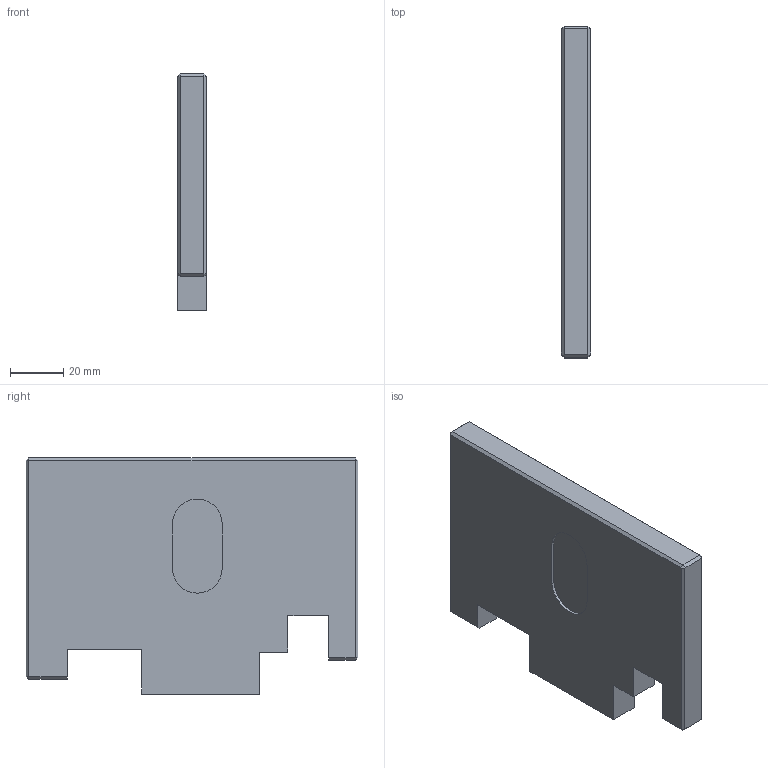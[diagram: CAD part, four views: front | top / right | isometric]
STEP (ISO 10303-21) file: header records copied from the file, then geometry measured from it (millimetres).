
FILE_DESCRIPTION(/* description */ (''),/* implementation_level */ '2;1');
FILE_NAME(/* name */ 'D:\CHINT2\NR2\Механическая блокировка NC1-40-95.stp',/* time_stamp */ '2017-11-15T20:32:56+03:00',/* author */ ('RSagdiev'),/* organization */ (''),/* preprocessor_version */ 'ST-DEVELOPER v16.5',/* originating_system */ 'Autodesk Inventor 2017',/* authorisation */ '');
FILE_SCHEMA (('AUTOMOTIVE_DESIGN { 1 0 10303 214 3 1 1 }'));
Length unit declared in the file: millimetre
Products named in the file (1): Механическая 
блокировка NC1-40-95
Bounding box: 11 x 125 x 89 mm (x, y, z)
Volume: 106384.2 mm3; surface area: 24732.8 mm2
Topology: 1 solids, 1 shells, 48 faces, 108 edges, 64 vertices
Faces by surface type: plane 44, cylinder 4
Entity records: 1319 total; most frequent: CARTESIAN_POINT 221, ORIENTED_EDGE 216, DIRECTION 214, EDGE_CURVE 108, LINE 100, VECTOR 100, VERTEX_POINT 64, AXIS2_PLACEMENT_3D 57
